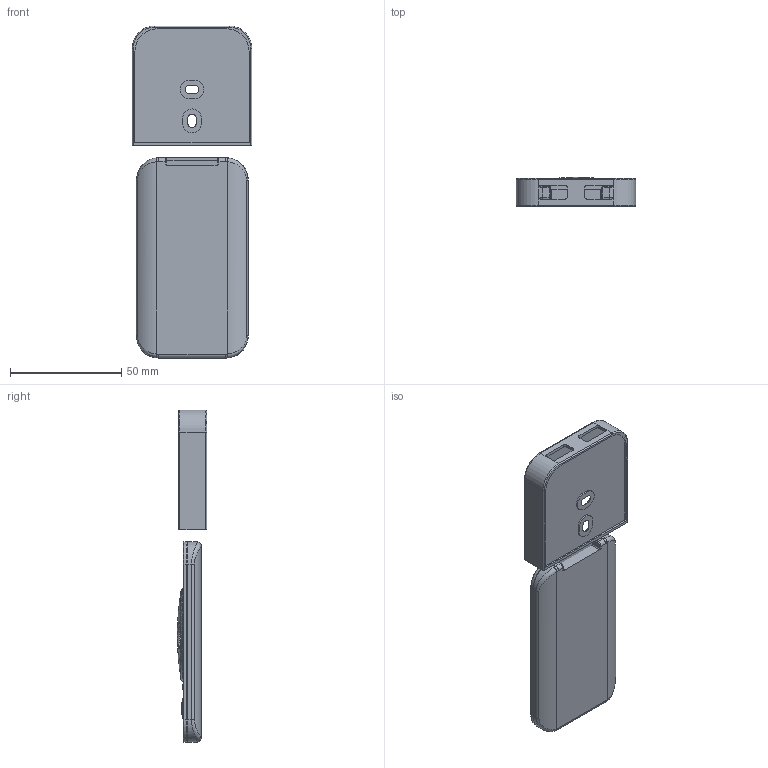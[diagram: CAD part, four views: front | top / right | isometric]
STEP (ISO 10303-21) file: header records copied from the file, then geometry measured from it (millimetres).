
FILE_DESCRIPTION (( 'STEP AP214' ), '1' );
FILE_NAME ('2000375 Emotion 1-Kanal Funkfernbedienung Serie Frankfurt Schwarz.STEP', '2022-11-09T13:03:51', ( '' ), ( '' ), 'SwSTEP 2.0', 'SolidWorks 2021', '' );
FILE_SCHEMA (( 'AUTOMOTIVE_DESIGN' ));
Length unit declared in the file: millimetre
Products named in the file (8): MAGIC-L21-4-5V-QINGCHUKAIGUAN_1.stp.STEP.STEP; KZQ-8YKC-K-GAI_119.stp.STEP.STEP; kzq-8ykc-k_asm(____).stp.STEP.STEP; 2000375 Emotion 1-Kanal Funkfernbedienung Serie Frankfurt Schwarz; KZQ-8YKC-K-ANNIU_44.stp.STEP.STEP; KZQ-8YKC-TIAOJIEXIANNIU_65.stp.STEP.STEP; KZQ-8YKC-K-DI_109.stp.STEP.STEP; Wandhalterung Frankfurt 1-Kanal.STEP.STEP
Assembly tree (9 placements, depth 3):
  2000375 Emotion 1-Kanal Funkfernbedienung Serie Frankfurt Schwarz
    kzq-8ykc-k_asm(____).stp.STEP.STEP
      KZQ-8YKC-K-DI_109.stp.STEP.STEP
      MAGIC-L21-4-5V-QINGCHUKAIGUAN_1.stp.STEP.STEP  x3
      KZQ-8YKC-K-GAI_119.stp.STEP.STEP
      KZQ-8YKC-K-ANNIU_44.stp.STEP.STEP
      KZQ-8YKC-TIAOJIEXIANNIU_65.stp.STEP.STEP
    Wandhalterung Frankfurt 1-Kanal.STEP.STEP
Bounding box: 53.75 x 13.15 x 149.25 mm (x, y, z)
Volume: 43456.5 mm3; surface area: 32950.4 mm2
Topology: 7 solids, 12 shells, 347 faces, 853 edges, 542 vertices
Faces by surface type: plane 150, cylinder 113, torus 31, sphere 31, bspline 11, cone 11
Entity records: 13920 total; most frequent: CARTESIAN_POINT 6286, ORIENTED_EDGE 1624, DIRECTION 1348, EDGE_CURVE 815, VERTEX_POINT 518, AXIS2_PLACEMENT_3D 513, EDGE_LOOP 353, ADVANCED_FACE 329
